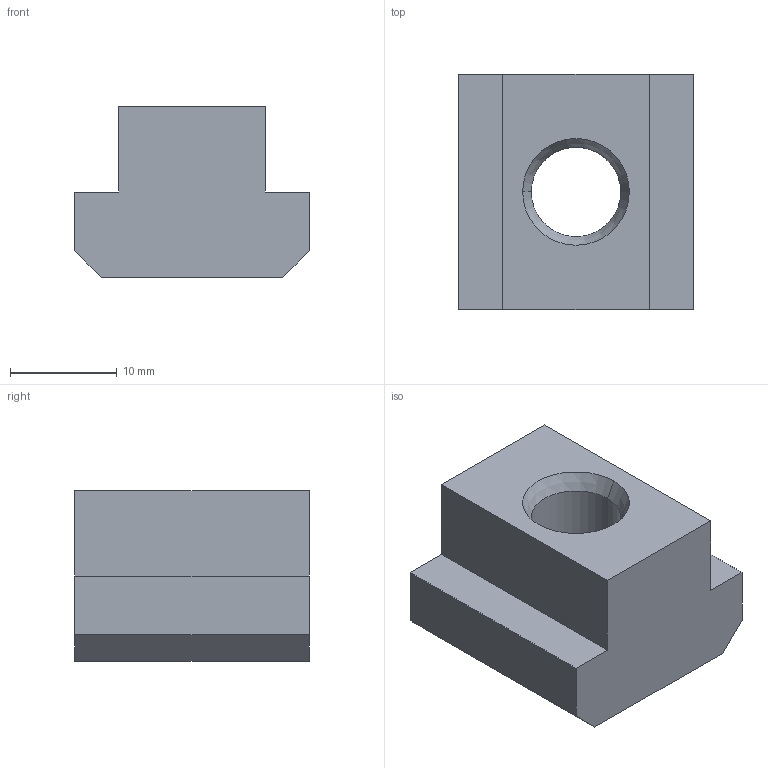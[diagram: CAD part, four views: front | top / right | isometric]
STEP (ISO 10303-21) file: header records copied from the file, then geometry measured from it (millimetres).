
FILE_DESCRIPTION(('STEP AP214'),'1');
FILE_NAME('cctmp_CD8F0210-E7A7-4AF8-8803-8708D4AED535_2019_10_10_12_38_34_979..stp','2019-10-10T10:38:35',('Meusburger Georg GmbH & Co KG'),('CADClick - www.CADClick.com'),'Spatial InterOp 3D',' ','unknown authorization');
FILE_SCHEMA(('AUTOMOTIVE_DESIGN { 1 0 10303 214 1 1 1 1 }'));
Length unit declared in the file: millimetre
Products named in the file (1): HWS 9016_10_14
Bounding box: 22 x 22 x 16 mm (x, y, z)
Volume: 5226.5 mm3; surface area: 2449.7 mm2
Topology: 1 solids, 1 shells, 18 faces, 44 edges, 28 vertices
Faces by surface type: plane 12, cone 4, cylinder 2
Entity records: 696 total; most frequent: CARTESIAN_POINT 91, DIRECTION 90, ORIENTED_EDGE 88, EDGE_CURVE 44, LINE 36, VECTOR 36, VERTEX_POINT 28, AXIS2_PLACEMENT_3D 27
